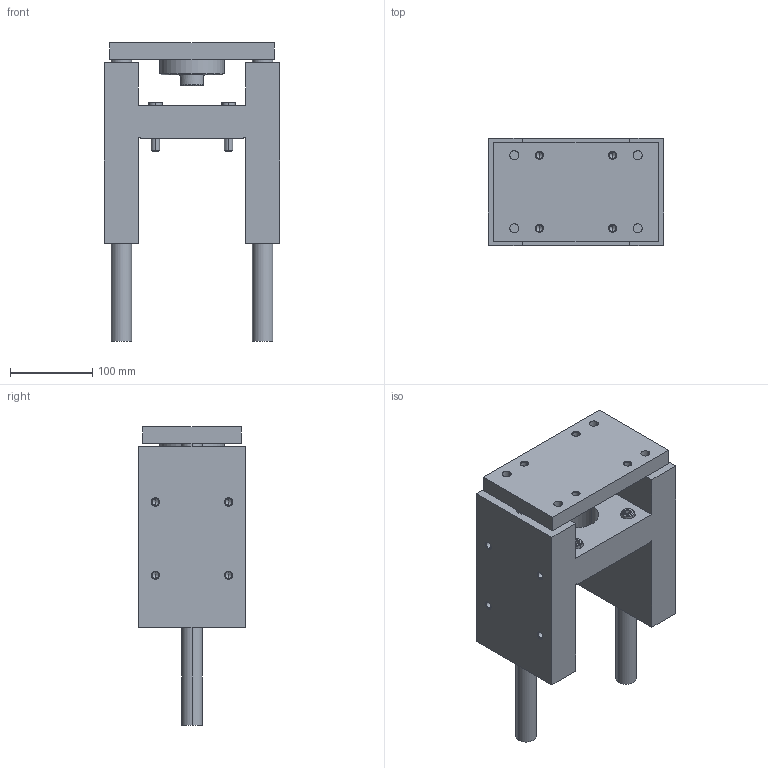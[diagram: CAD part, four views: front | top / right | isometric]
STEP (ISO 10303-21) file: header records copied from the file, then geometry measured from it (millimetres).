
FILE_DESCRIPTION (( 'STEP AP203' ), '1' );
FILE_NAME ('GB100-100.STEP', '2020-04-24T13:43:08', ( '' ), ( '' ), 'SwSTEP 2.0', 'SolidWorks 2019', '' );
FILE_SCHEMA (( 'CONFIG_CONTROL_DESIGN' ));
Length unit declared in the file: millimetre
Products named in the file (1): GB100-100
Bounding box: 213 x 130 x 363 mm (x, y, z)
Volume: 3590546.6 mm3; surface area: 390487.6 mm2
Topology: 6 solids, 6 shells, 329 faces, 728 edges, 412 vertices
Faces by surface type: cone 134, cylinder 98, plane 97
Entity records: 9631 total; most frequent: CARTESIAN_POINT 2242, DIRECTION 1662, ORIENTED_EDGE 1392, EDGE_CURVE 696, AXIS2_PLACEMENT_3D 664, VERTEX_POINT 412, EDGE_LOOP 392, VECTOR 334
